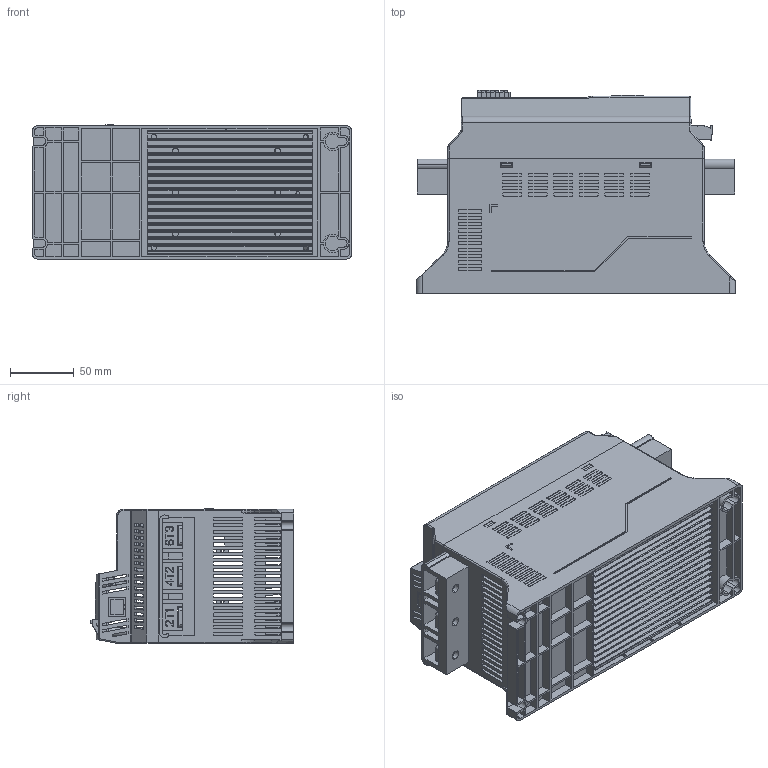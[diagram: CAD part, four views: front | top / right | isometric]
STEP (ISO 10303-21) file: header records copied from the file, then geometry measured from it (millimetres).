
FILE_DESCRIPTION (( 'STEP AP203' ), '1' );
FILE_NAME ('SBIM-22_44-04.STEP', '2025-02-20T14:03:26', ( '' ), ( '' ), 'SwSTEP 2.0', 'SolidWorks 2021', '' );
FILE_SCHEMA (( 'CONFIG_CONTROL_DESIGN' ));
Length unit declared in the file: millimetre
Products named in the file (31): 抔樦憵 3D-00001; 扻豵鵨 膰臇樏襜譇 2540001; Óçåë ñèëîâîé Â; 扱闀罻 6-6-80001; Îñíîâà ïëàòû 8800-18-37-PCB-2; Ïëàòà ïàíåëè óïðàëåíèÿ 8800-18-37-PCB-200; Âåðõíÿÿ ÷àñòü êîðïóñà 18-37; Øèíà ââîäíàÿ; SBIM-22_44-04; 冓儰僗闉 18-37; Êðûøêà ñèëîâûõ êëåìì 8800-18-37-000_1; Ïëàòà ïèòàíèÿ 360-18-37-0001 Â; ﾏ褊鶴 1D5-000001; Êíîïêà ïóñêà; Èçîëÿòîð øèí ââîäíûõ 360-18-37-000_1-244340; Êíîïêà ñòîïà; Ëèöåâàÿ ôàëüøïàíåëü 18-37; Øèíà âûâîäíàÿ; Íèæíÿÿ ÷àñòü êîðïóñà; Êîííåêòîð 2540001; Êëåììíàÿ êîëîäêà 3D5_60001; Äèñïëåé 8800-11 12864COG; RJ45; Êëåììíàÿ êîëîäêà 8800-508 Ï_7P; 抔樦憵 PL2D5B-5-508-05; Ëèöåâàÿ ïàíåëü; 抔樦憵 3D5-00001; Íîæêà êîííåêòîðà 2540001; Îñíîâà ïëàòû 360-18-37-000_1-132470; Ïàíåëü óïðàâëåíèÿ; Êîííåêòîð 254-0001
Assembly tree (72 placements, depth 4):
  SBIM-22_44-04
    Íèæíÿÿ ÷àñòü êîðïóñà
    Óçåë ñèëîâîé Â
      Øèíà ââîäíàÿ  x3
      Øèíà âûâîäíàÿ  x3
    Ïëàòà ïàíåëè óïðàëåíèÿ 8800-18-37-PCB-200
      Îñíîâà ïëàòû 8800-18-37-PCB-2
      Äèñïëåé 8800-11 12864COG
      扱闀罻 6-6-80001  x8
      Êëåììíàÿ êîëîäêà 3D5_60001
        抔樦憵 3D5-00001  x4
        抔樦憵 3D-00001  x3
        ﾏ褊鶴 1D5-000001
      RJ45
      Êîííåêòîð 254-0001  x10
    Ïëàòà ïèòàíèÿ 360-18-37-0001 Â
      Îñíîâà ïëàòû 360-18-37-000_1-132470
      Êëåììíàÿ êîëîäêà 8800-508 Ï_7P
      Êîííåêòîð 2540001  x10
        扻豵鵨 膰臇樏襜譇 2540001
        Íîæêà êîííåêòîðà 2540001
    Ïàíåëü óïðàâëåíèÿ
      Ëèöåâàÿ ïàíåëü
      Êíîïêà ñòîïà
      Êíîïêà ïóñêà
    抔樦憵 PL2D5B-5-508-05  x7
    Êðûøêà ñèëîâûõ êëåìì 8800-18-37-000_1  x2
    Âåðõíÿÿ ÷àñòü êîðïóñà 18-37
    Ëèöåâàÿ ôàëüøïàíåëü 18-37
    Èçîëÿòîð øèí ââîäíûõ 360-18-37-000_1-244340
    冓儰僗闉 18-37
Bounding box: 250 x 159.7 x 105.5 mm (x, y, z)
Volume: 679913.6 mm3; surface area: 572650.8 mm2
Topology: 84 solids, 84 shells, 6402 faces, 17010 edges, 11161 vertices
Faces by surface type: plane 4471, cylinder 1535, bspline 343, torus 47, cone 6
Entity records: 172131 total; most frequent: CARTESIAN_POINT 45977, ORIENTED_EDGE 26086, DIRECTION 23637, EDGE_CURVE 13043, LINE 10081, VECTOR 10081, VERTEX_POINT 8625, AXIS2_PLACEMENT_3D 6778
